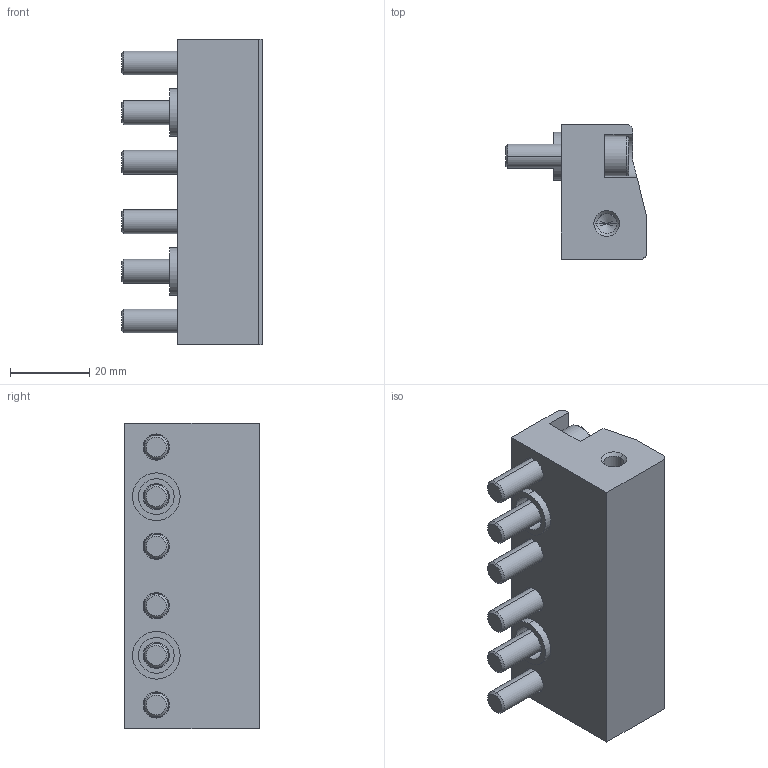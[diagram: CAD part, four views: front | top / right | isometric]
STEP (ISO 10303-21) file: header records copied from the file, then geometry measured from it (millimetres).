
FILE_DESCRIPTION((''),'2;1');
FILE_NAME('R402002699_ASM','2017-06-13T',('pug1hc'),(''),'CREO PARAMETRIC BY PTC INC, 2016260','CREO PARAMETRIC BY PTC INC, 2016260','');
FILE_SCHEMA(('CONFIG_CONTROL_DESIGN'));
Length unit declared in the file: millimetre
Products named in the file (4): R402002690; MC6S_6X25; E2C_RING-DIA12; R402002699_ASM
Assembly tree (9 placements, depth 2):
  R402002699_ASM
    R402002690
    MC6S_6X25  x6
    E2C_RING-DIA12  x2
Bounding box: 35.5 x 34 x 77 mm (x, y, z)
Volume: 50657.1 mm3; surface area: 18770.8 mm2
Topology: 9 solids, 9 shells, 192 faces, 436 edges, 274 vertices
Faces by surface type: plane 86, cylinder 62, torus 24, cone 20
Entity records: 2820 total; most frequent: CARTESIAN_POINT 540, DIRECTION 488, ORIENTED_EDGE 420, EDGE_CURVE 210, AXIS2_PLACEMENT_3D 189, VERTEX_POINT 136, VECTOR 110, LINE 110
